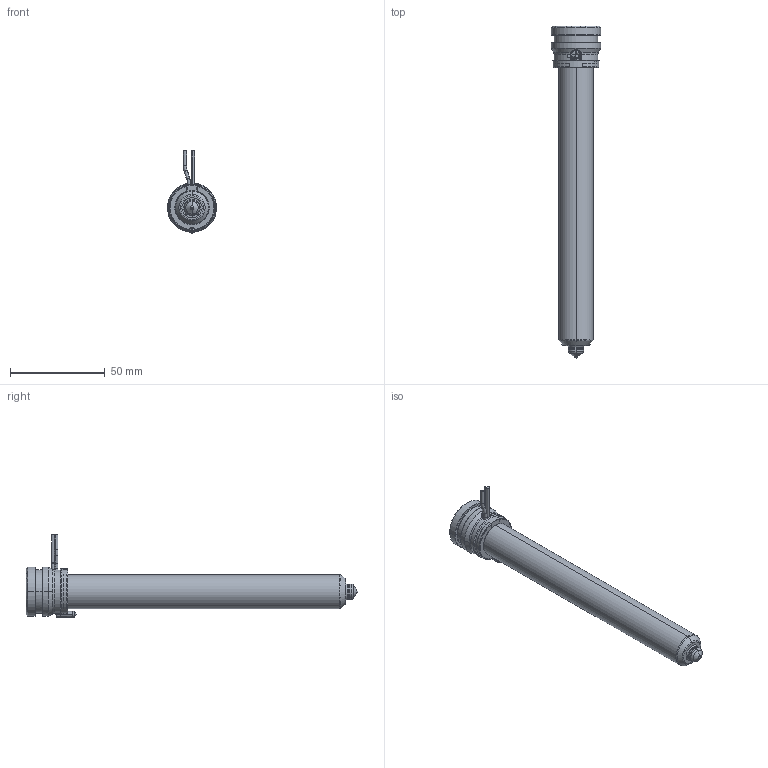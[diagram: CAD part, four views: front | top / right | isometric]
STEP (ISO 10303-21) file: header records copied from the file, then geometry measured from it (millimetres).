
FILE_DESCRIPTION((''),'2;1');
FILE_NAME('MPN-08-24-TX8-156-A','2026-02-05T11:55:10',('UPTIO'),('Thermoplay S.p.A.'),'CREO PARAMETRIC BY PTC INC, 2023494','CREO PARAMETRIC BY PTC INC, 2023494','');
FILE_SCHEMA(('CONFIG_CONTROL_DESIGN','SHAPE_APPEARANCE_LAYERS_GROUPS'));
Length unit declared in the file: millimetre
Products named in the file (1): MPN-08-24-TX8-156-A
Bounding box: 26 x 175.5 x 43.5 mm (x, y, z)
Volume: 32943.9 mm3; surface area: 42846.5 mm2
Topology: 2 solids, 3 shells, 548 faces, 1458 edges, 904 vertices
Faces by surface type: cylinder 180, plane 144, bspline 82, torus 64, cone 60, sphere 12, extrusion 6
Entity records: 29962 total; most frequent: CARTESIAN_POINT 13616, ORIENTED_EDGE 2896, DIRECTION 2574, EDGE_CURVE 1448, AXIS2_PLACEMENT_3D 1006, VERTEX_POINT 904, EDGE_LOOP 576, VECTOR 562
